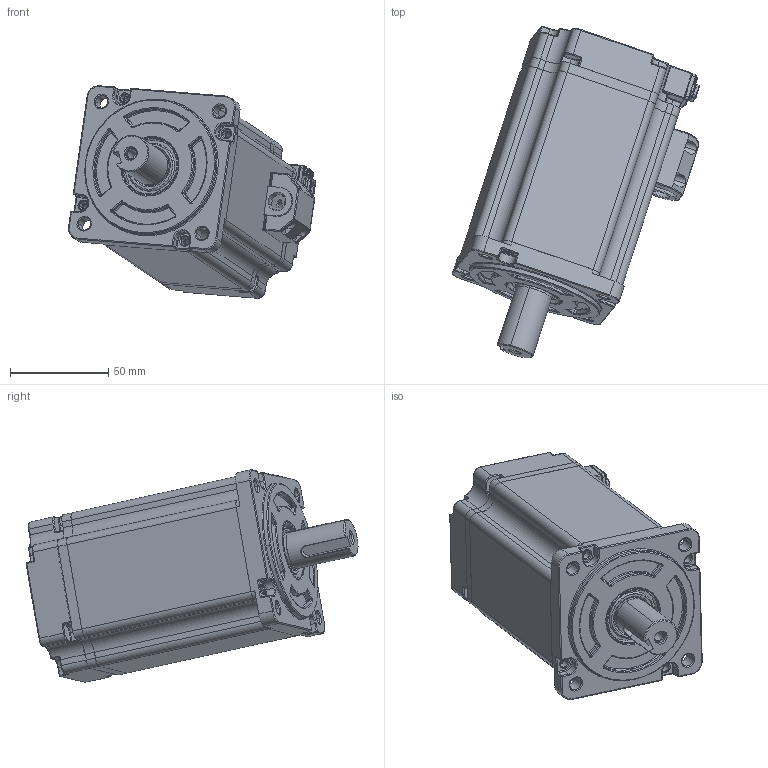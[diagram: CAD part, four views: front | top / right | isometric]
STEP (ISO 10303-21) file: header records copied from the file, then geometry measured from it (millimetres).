
FILE_DESCRIPTION (( 'STEP AP214' ), '1' );
FILE_NAME ('1000w整机（插座式，无刹车）.STEP', '2023-07-03T02:16:48', ( '' ), ( '' ), 'SwSTEP 2.0', 'SolidWorks 2014', '' );
FILE_SCHEMA (( 'AUTOMOTIVE_DESIGN' ));
Length unit declared in the file: millimetre
Products named in the file (13): 揤盄裔躇猾菜-9.6; SC40陔晤鎢ん瑤脣釱sc-mc7p-a6-zhichuxianchazuo; 80#陔晤鎢ん欶; 80#陔ヶ傷裔 - 萵掛_1; E08B101AE2-92.5-D; 后轴承 GB／T276-94深沟球轴承6002-2Z_1; 前轴承 GB／T276-94深沟球轴承6004-2Z_1; 低压电机动力压线盖; 80#陔綴傷裔_1; 80-晤鎢ん欶; 1000w整机（插座式，无刹车）; E08B103AN3 - 19 - 145 - 8 - D; 蚐猾 D00B999YF5-TC 20-30-5-1
Assembly tree (12 placements, depth 3):
  1000w整机（插座式，无刹车）
    后轴承 GB／T276-94深沟球轴承6002-2Z_1
    前轴承 GB／T276-94深沟球轴承6004-2Z_1
    80#陔綴傷裔_1
    80#陔ヶ傷裔 - 萵掛_1
    揤盄裔躇猾菜-9.6
    低压电机动力压线盖
    蚐猾 D00B999YF5-TC 20-30-5-1
    E08B103AN3 - 19 - 145 - 8 - D
    E08B101AE2-92.5-D
    80-晤鎢ん欶
      80#陔晤鎢ん欶
      SC40陔晤鎢ん瑤脣釱sc-mc7p-a6-zhichuxianchazuo
Bounding box: 125.6 x 168.82 x 108.04 mm (x, y, z)
Volume: 286724.7 mm3; surface area: 147600.2 mm2
Topology: 20 solids, 20 shells, 3007 faces, 7698 edges, 4667 vertices
Faces by surface type: cylinder 1064, plane 1062, bspline 656, cone 151, torus 50, sphere 24
Entity records: 147352 total; most frequent: CARTESIAN_POINT 48158, ORIENTED_EDGE 15180, DIRECTION 13401, EDGE_CURVE 7590, AXIS2_PLACEMENT_3D 4846, VERTEX_POINT 4667, LINE 3709, VECTOR 3709
